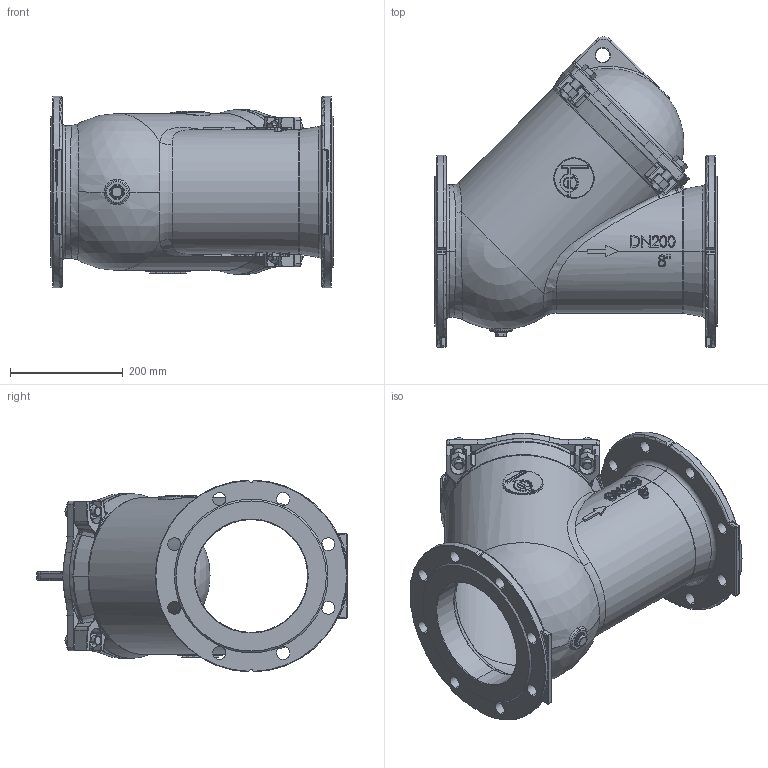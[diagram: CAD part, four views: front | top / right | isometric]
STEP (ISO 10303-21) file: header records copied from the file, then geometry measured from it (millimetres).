
FILE_DESCRIPTION (( 'STEP AP203' ), '1' );
FILE_NAME ('642000016-1.STEP', '2018-02-16T10:15:13', ( '' ), ( '' ), 'SwSTEP 2.0', 'SolidWorks 2017', '' );
FILE_SCHEMA (( 'CONFIG_CONTROL_DESIGN' ));
Length unit declared in the file: millimetre
Products named in the file (1): 642000016-1
Bounding box: 500 x 549.84 x 339.79 mm (x, y, z)
Surface area: 1483010.5 mm2 (no closed solid volume)
Topology: 0 solids, 21 shells, 1094 faces, 3006 edges, 1850 vertices
Faces by surface type: plane 327, cylinder 305, bspline 211, torus 122, cone 91, sphere 38
Entity records: 50610 total; most frequent: CARTESIAN_POINT 24541, ORIENTED_EDGE 5390, DIRECTION 5232, EDGE_CURVE 2960, AXIS2_PLACEMENT_3D 2033, VERTEX_POINT 1840, EDGE_LOOP 1179, LINE 1166
